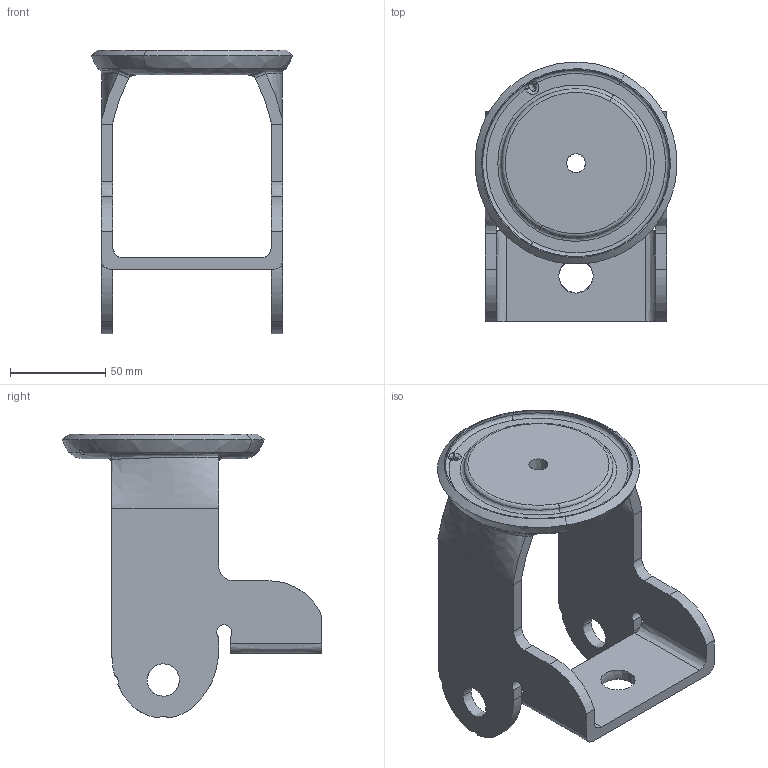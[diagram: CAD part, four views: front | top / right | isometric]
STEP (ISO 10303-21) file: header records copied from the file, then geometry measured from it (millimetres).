
FILE_DESCRIPTION (( 'STEP AP214' ), '1' );
FILE_NAME ('KTU-200WJ-GS-20.STEP', '2018-08-30T07:54:30', ( '' ), ( '' ), 'SwSTEP 2.0', 'SolidWorks 2010', '' );
FILE_SCHEMA (( 'AUTOMOTIVE_DESIGN' ));
Length unit declared in the file: millimetre
Products named in the file (1): KTU-200WJ-GS-20
Bounding box: 105.83 x 135.9 x 148.87 mm (x, y, z)
Volume: 222109.6 mm3; surface area: 69518.7 mm2
Topology: 1 solids, 1 shells, 92 faces, 671 edges, 579 vertices
Faces by surface type: bspline 72, plane 20
Entity records: 36942 total; most frequent: CARTESIAN_POINT 32998, ORIENTED_EDGE 1342, EDGE_CURVE 671, VERTEX_POINT 579, B_SPLINE_CURVE_WITH_KNOTS 575, DIRECTION 138, EDGE_LOOP 102, VECTOR 96
